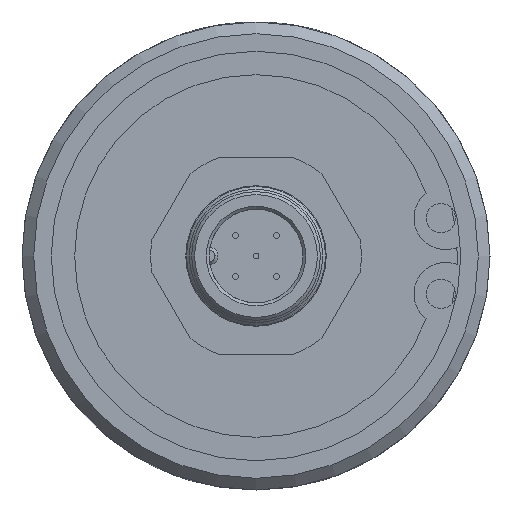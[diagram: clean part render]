
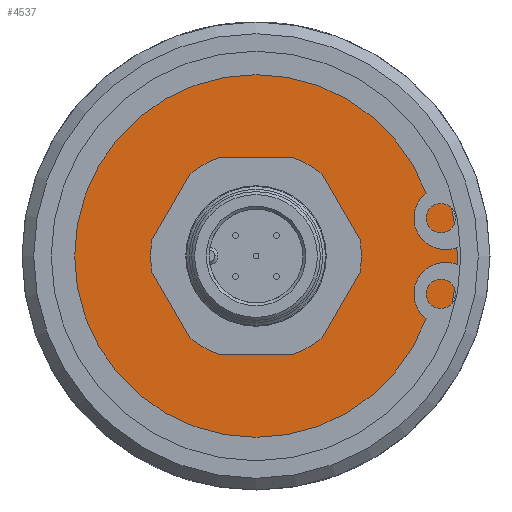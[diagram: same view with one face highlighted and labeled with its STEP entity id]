
A CAD part, left-side view. The second image highlights one B-rep face of the part: STEP entity #4537.
In plain terms, the highlighted planar face has unit normal (-1, 0, 0) as drawn and (0, 0, 1) by its records, which use the part's own axes.
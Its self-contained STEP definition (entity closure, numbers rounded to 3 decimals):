
#729=PLANE('',#4865);
#802=CIRCLE('',#4861,7.25);
#803=CIRCLE('',#4863,17.25);
#1654=VERTEX_POINT('',#7076);
#1655=VERTEX_POINT('',#7079);
#2177=EDGE_CURVE('',#1654,#1654,#802,.T.);
#2178=EDGE_CURVE('',#1655,#1655,#803,.T.);
#3029=ORIENTED_EDGE('',*,*,#2177,.T.);
#3030=ORIENTED_EDGE('',*,*,#2178,.F.);
#3718=EDGE_LOOP('',(#3029));
#3719=EDGE_LOOP('',(#3030));
#4136=FACE_BOUND('',#3718,.T.);
#4137=FACE_BOUND('',#3719,.T.);
#4537=ADVANCED_FACE('',(#4136,#4137),#729,.T.);
#4861=AXIS2_PLACEMENT_3D('',#7075,#5558,#5559);
#4863=AXIS2_PLACEMENT_3D('',#7078,#5562,#5563);
#4865=AXIS2_PLACEMENT_3D('',#7082,#5566,$);
#5558=DIRECTION('',(0.,0.,-1.));
#5559=DIRECTION('',(0.,7.25,0.));
#5562=DIRECTION('',(0.,0.,-1.));
#5563=DIRECTION('',(17.25,0.,0.));
#5566=DIRECTION('',(0.,0.,1.));
#7075=CARTESIAN_POINT('',(0.,0.,3.));
#7076=CARTESIAN_POINT('',(0.,7.25,3.));
#7078=CARTESIAN_POINT('',(0.,0.,3.));
#7079=CARTESIAN_POINT('',(17.25,0.,3.));
#7082=CARTESIAN_POINT('',(0.,0.,3.));
